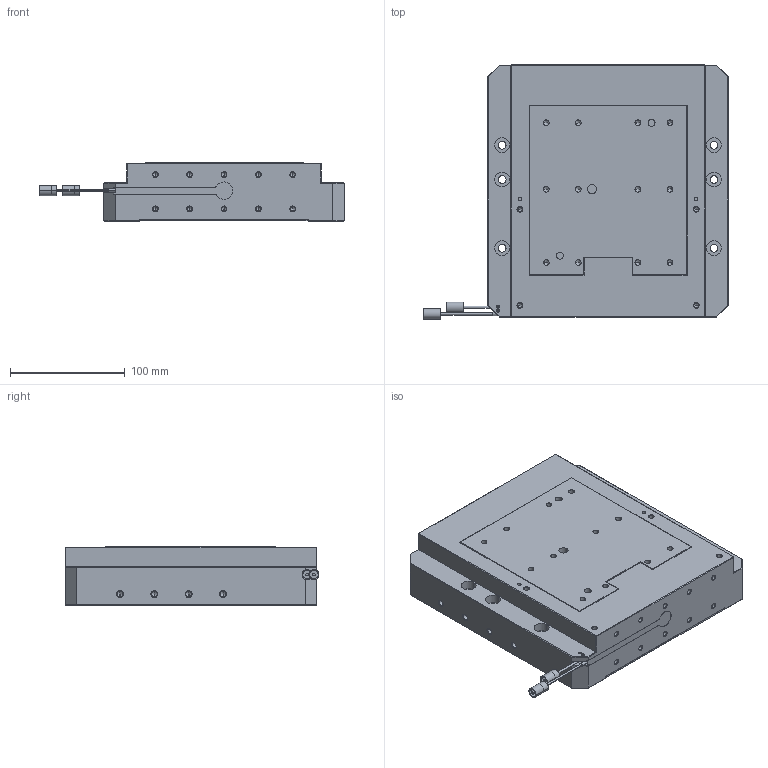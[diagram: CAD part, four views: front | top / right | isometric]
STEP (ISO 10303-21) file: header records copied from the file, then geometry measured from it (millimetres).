
FILE_DESCRIPTION (( 'STEP AP203' ), '1' );
FILE_NAME ('24110×°ÅäÌå24.07.26.STEP', '2024-07-26T00:55:50', ( '' ), ( '' ), 'SwSTEP 2.0', 'SolidWorks 2016', '' );
FILE_SCHEMA (( 'CONFIG_CONTROL_DESIGN' ));
Length unit declared in the file: millimetre
Products named in the file (1): 24110蚾饜极24.07.26
Bounding box: 266 x 221.8 x 51.5 mm (x, y, z)
Volume: 2140464.9 mm3; surface area: 222946.4 mm2
Topology: 15 solids, 20 shells, 778 faces, 1846 edges, 1073 vertices
Faces by surface type: plane 271, cylinder 262, cone 245
Entity records: 21476 total; most frequent: DIRECTION 3949, CARTESIAN_POINT 3583, ORIENTED_EDGE 3448, EDGE_CURVE 1724, AXIS2_PLACEMENT_3D 1447, VERTEX_POINT 1073, VECTOR 1055, LINE 1055
